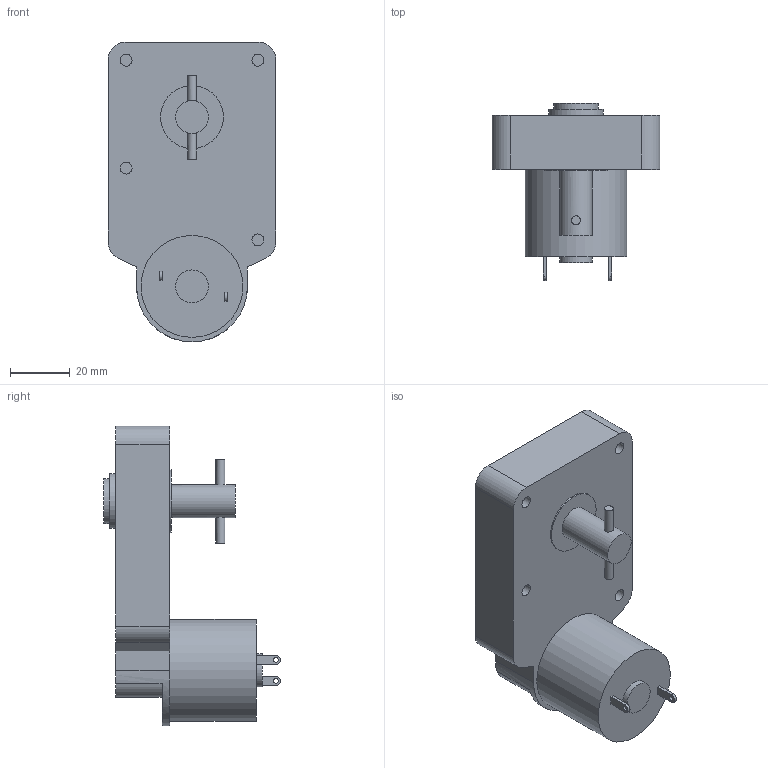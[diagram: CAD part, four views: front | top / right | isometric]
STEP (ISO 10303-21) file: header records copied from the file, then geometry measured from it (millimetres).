
FILE_DESCRIPTION((''),'2;1');
FILE_NAME('E:\2공장-도면\3D\표준형 3D(민규)\1공장 step\KGP-3429(INSERT TYPE).stp','2015-02-26T14:03:20',('AHN'),(''),'Autodesk Inventor 2012','Autodesk Inventor 2012','');
FILE_SCHEMA(('CONFIG_CONTROL_DESIGN'));
Length unit declared in the file: millimetre
Products named in the file (1): KGP-3429(1)
Bounding box: 56 x 59 x 100 mm (x, y, z)
Volume: 114456.5 mm3; surface area: 19512.4 mm2
Topology: 1 solids, 1 shells, 54 faces, 114 edges, 76 vertices
Faces by surface type: plane 31, cylinder 23
Full cylindrical faces by diameter (mm): 1.5 x2, 3 x2, 4 x4, 11 x2, 15 x1, 18.2 x1, 21 x1, 34 x1
Entity records: 1490 total; most frequent: CARTESIAN_POINT 297, DIRECTION 254, ORIENTED_EDGE 200, AXIS2_PLACEMENT_3D 101, EDGE_CURVE 100, EDGE_LOOP 86, VERTEX_POINT 76, FACE_OUTER_BOUND 54
